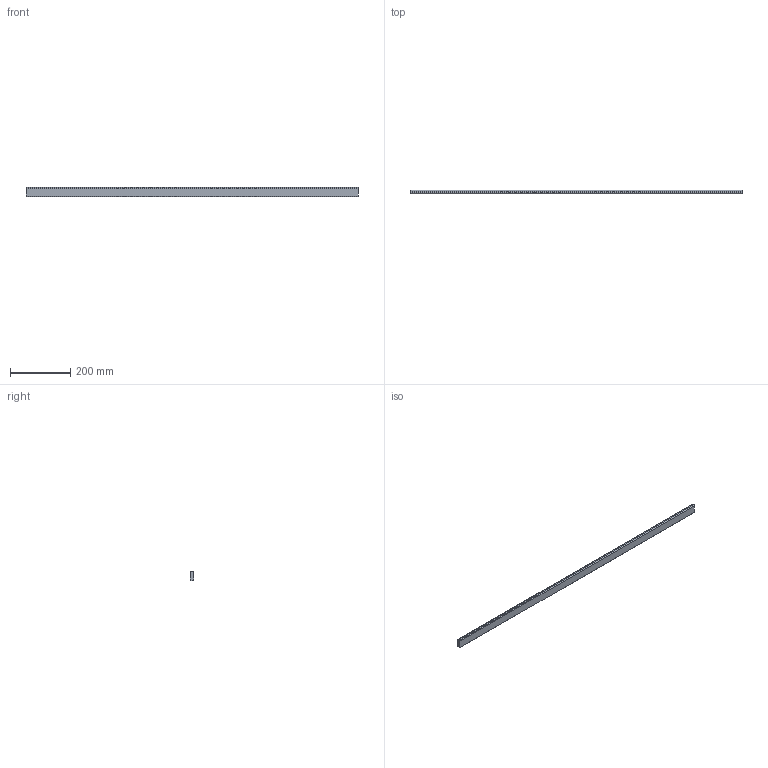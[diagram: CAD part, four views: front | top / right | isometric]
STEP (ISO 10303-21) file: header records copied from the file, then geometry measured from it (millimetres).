
FILE_DESCRIPTION (( 'STEP AP214' ), '1' );
FILE_NAME ('_Querreling_KAB-1200_KS-19.step', '2010-08-26T14:58:41', ( 'grass' ), ( '' ), 'SwSTEP 2.0', 'SolidWorks 2009', '' );
FILE_SCHEMA (( 'AUTOMOTIVE_DESIGN' ));
Length unit declared in the file: millimetre
Products named in the file (1): _Querreling_KAB-1200_KS-19
Bounding box: 1106.5 x 10.5 x 30 mm (x, y, z)
Volume: 343798.4 mm3; surface area: 86448.6 mm2
Topology: 1 solids, 1 shells, 10 faces, 24 edges, 16 vertices
Faces by surface type: plane 6, cylinder 4
Entity records: 330 total; most frequent: DIRECTION 54, CARTESIAN_POINT 51, ORIENTED_EDGE 48, EDGE_CURVE 24, AXIS2_PLACEMENT_3D 19, LINE 16, VECTOR 16, VERTEX_POINT 16
